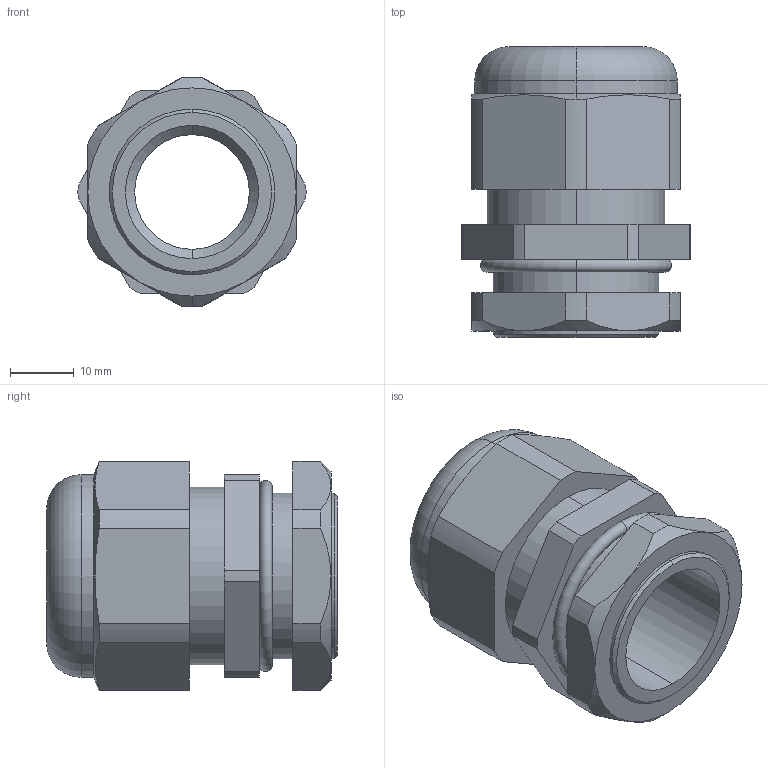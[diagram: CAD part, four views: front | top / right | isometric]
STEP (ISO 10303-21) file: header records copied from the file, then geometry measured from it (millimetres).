
FILE_DESCRIPTION (( 'STEP AP203' ), '1' );
FILE_NAME ('CH-B3_4.STEP', '2018-02-07T14:49:19', ( '' ), ( '' ), 'SwSTEP 2.0', 'SolidWorks 2012', '' );
FILE_SCHEMA (( 'CONFIG_CONTROL_DESIGN' ));
Length unit declared in the file: millimetre
Products named in the file (1): CH-B3_4
Bounding box: 35.79 x 45.65 x 36 mm (x, y, z)
Volume: 22419.4 mm3; surface area: 9921.9 mm2
Topology: 1 solids, 1 shells, 78 faces, 189 edges, 118 vertices
Faces by surface type: cylinder 34, plane 25, cone 15, torus 4
Entity records: 2478 total; most frequent: CARTESIAN_POINT 532, DIRECTION 415, ORIENTED_EDGE 378, EDGE_CURVE 189, AXIS2_PLACEMENT_3D 165, VERTEX_POINT 118, CIRCLE 86, EDGE_LOOP 85
